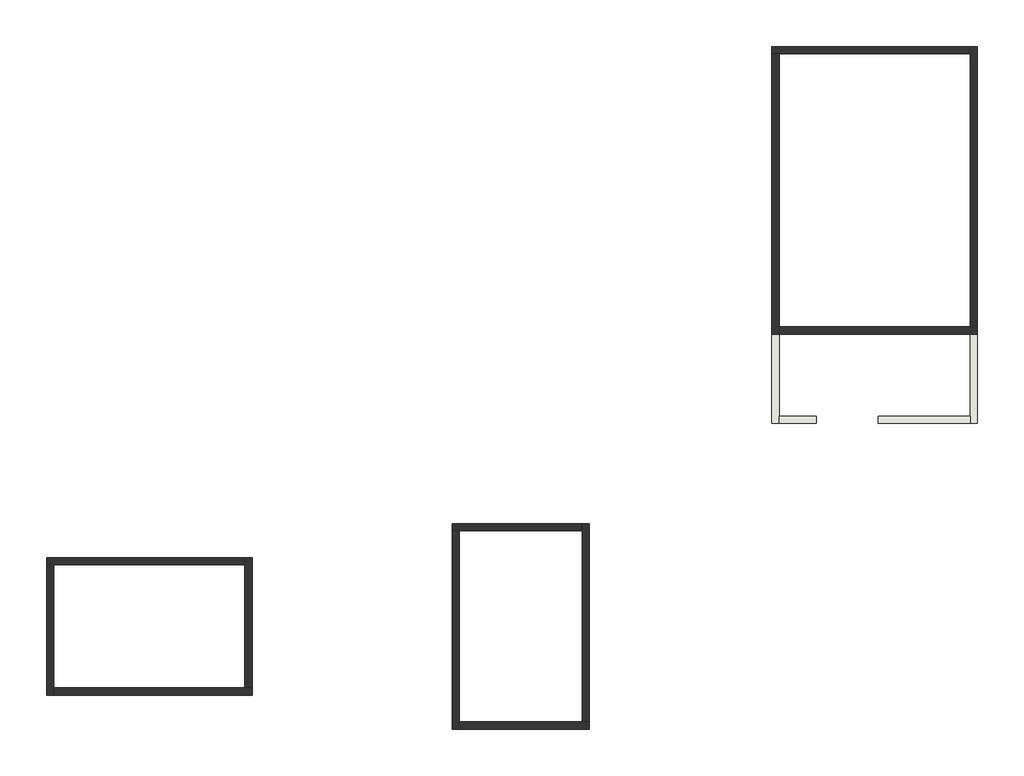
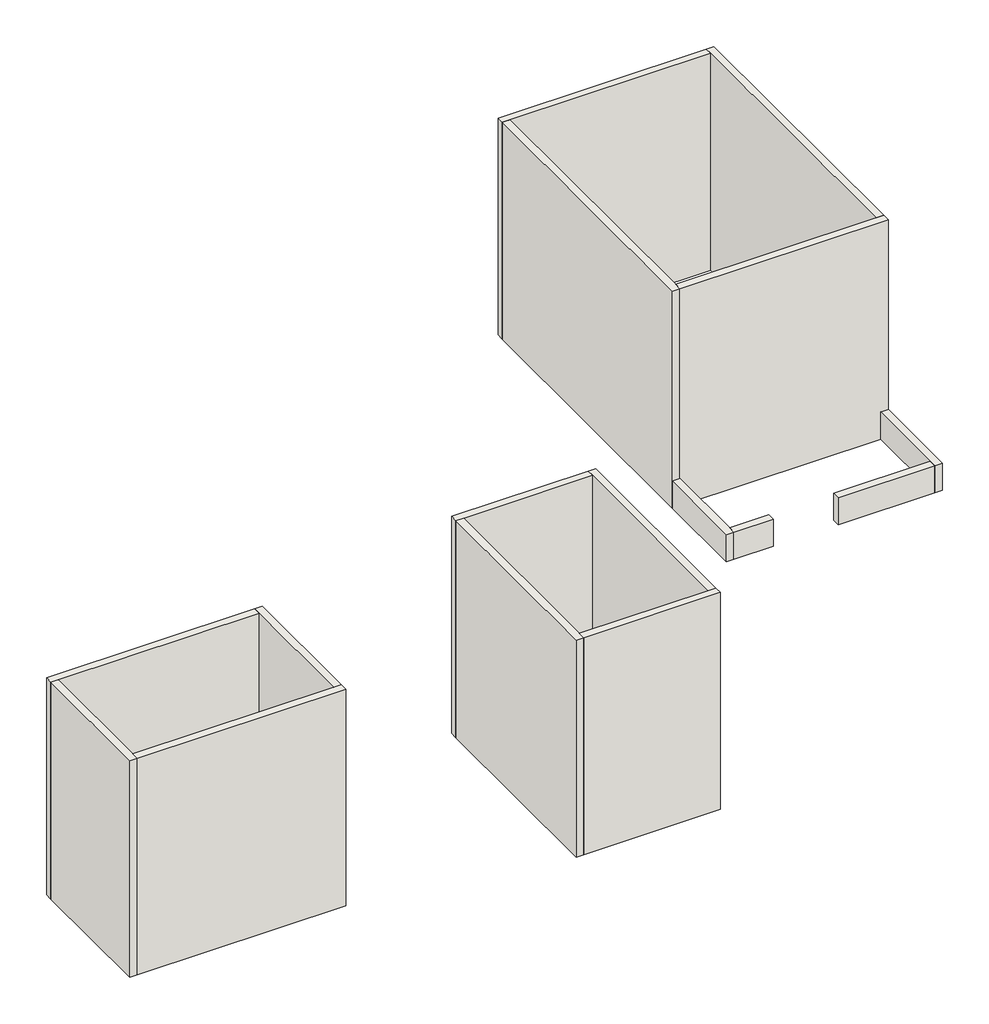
# One storey: 16 walls.
"""IFC4 building model written with IfcOpenShell, lengths in millimetres."""

from ifc_helpers import new_model, si_unit, origin, origin_with_axes, place, context, project, spatial, polyline, outline, extrude, faceted_brep, element, save

model = new_model("IFC4")

# Units and contexts
model_context = context("Model", 3, world=origin())
ifc_project = project(units=[si_unit("LENGTHUNIT", "METRE", prefix="MILLI")], contexts=[model_context])

# Site, building, storey
site = spatial("IfcSite", under=ifc_project)
building = spatial("IfcBuilding", under=site)
storey = spatial("IfcBuildingStorey", under=building, Name="Nível 1", Elevation=0.0)

# Walls
placement = place(None, origin())
element("IfcWall", 1, ObjectType="CW 102-50-100p", at=placement, inside=storey, context=model_context, shape_type="Brep", body=[
    faceted_brep([(-11859.5381387, 2966.9722757, 0.0), (-11595.5381387, 2966.9722757, 0.0), (-4595.5381387, 2966.9722757, 0.0), (-4595.5381387, 2966.9722757, 8000.0), (-11595.5381387, 2966.9722757, 8000.0), (-11859.5381387, 2966.9722757, 8000.0), (-11859.5381387, 3230.9722757, 0.0), (-11859.5381387, 3230.9722757, 8000.0), (-4595.5381387, 3230.9722757, 8000.0), (-4595.5381387, 3230.9722757, 0.0)], [[[0, 1, 2, 3, 4, 5]], [[6, 7, 8, 9]], [[2, 1, 0, 6, 9]], [[5, 4, 3, 8, 7]], [[0, 5, 7, 6]], [[3, 2, 9, 8]]]),
])
element("IfcWall", 2, ObjectType="CW 102-50-100p", at=placement, inside=storey, context=model_context, shape_type="Brep", body=[
    faceted_brep([(-11595.5381387, -1797.0277243, 0.0), (-11595.5381387, -1533.0277243, 0.0), (-11595.5381387, 2966.9722757, 0.0), (-11595.5381387, 2966.9722757, 8000.0), (-11595.5381387, -1533.0277243, 8000.0), (-11595.5381387, -1797.0277243, 8000.0), (-11859.5381387, -1797.0277243, 0.0), (-11859.5381387, -1797.0277243, 8000.0), (-11859.5381387, 2966.9722757, 8000.0), (-11859.5381387, 2966.9722757, 0.0)], [[[0, 1, 2, 3, 4, 5]], [[6, 7, 8, 9]], [[2, 1, 0, 6, 9]], [[5, 4, 3, 8, 7]], [[0, 5, 7, 6]], [[3, 2, 9, 8]]]),
])
element("IfcWall", 3, ObjectType="CW 102-50-100p", at=placement, inside=storey, context=model_context, shape_type="Brep", body=[
    faceted_brep([(-4331.5381387, -1533.0277243, 0.0), (-4595.5381387, -1533.0277243, 0.0), (-11595.5381387, -1533.0277243, 0.0), (-11595.5381387, -1533.0277243, 8000.0), (-4595.5381387, -1533.0277243, 8000.0), (-4331.5381387, -1533.0277243, 8000.0), (-4331.5381387, -1797.0277243, 0.0), (-4331.5381387, -1797.0277243, 8000.0), (-11595.5381387, -1797.0277243, 8000.0), (-11595.5381387, -1797.0277243, 0.0)], [[[0, 1, 2, 3, 4, 5]], [[6, 7, 8, 9]], [[2, 1, 0, 6, 9]], [[5, 4, 3, 8, 7]], [[0, 5, 7, 6]], [[3, 2, 9, 8]]]),
])
element("IfcWall", 4, ObjectType="CW 102-50-100p", at=placement, inside=storey, context=model_context, shape_type="Brep", body=[
    faceted_brep([(-4595.5381387, 3230.9722757, 0.0), (-4595.5381387, 2966.9722757, 0.0), (-4595.5381387, -1533.0277243, 0.0), (-4595.5381387, -1533.0277243, 8000.0), (-4595.5381387, 2966.9722757, 8000.0), (-4595.5381387, 3230.9722757, 8000.0), (-4331.5381387, 3230.9722757, 0.0), (-4331.5381387, 3230.9722757, 8000.0), (-4331.5381387, -1533.0277243, 8000.0), (-4331.5381387, -1533.0277243, 0.0)], [[[0, 1, 2, 3, 4, 5]], [[6, 7, 8, 9]], [[2, 1, 0, 6, 9]], [[5, 4, 3, 8, 7]], [[0, 5, 7, 6]], [[3, 2, 9, 8]]]),
])
element("IfcWall", 5, ObjectType="CW 102-50-100p", at=placement, inside=storey, context=model_context, shape_type="Brep", body=[
    faceted_brep([(3254.4618613, -3047.0277243, 0.0), (3254.4618613, -2783.0277243, 0.0), (3254.4618613, 4216.9722757, 0.0), (3254.4618613, 4216.9722757, 8000.0), (3254.4618613, -2783.0277243, 8000.0), (3254.4618613, -3047.0277243, 8000.0), (2990.4618613, -3047.0277243, 0.0), (2990.4618613, -3047.0277243, 8000.0), (2990.4618613, 4216.9722757, 8000.0), (2990.4618613, 4216.9722757, 0.0)], [[[0, 1, 2, 3, 4, 5]], [[6, 7, 8, 9]], [[2, 1, 0, 6, 9]], [[5, 4, 3, 8, 7]], [[0, 5, 7, 6]], [[3, 2, 9, 8]]]),
])
element("IfcWall", 6, ObjectType="CW 102-50-100p", at=placement, inside=storey, context=model_context, shape_type="Brep", body=[
    faceted_brep([(8018.4618613, -2783.0277243, 0.0), (7754.4618613, -2783.0277243, 0.0), (3254.4618613, -2783.0277243, 0.0), (3254.4618613, -2783.0277243, 8000.0), (7754.4618613, -2783.0277243, 8000.0), (8018.4618613, -2783.0277243, 8000.0), (8018.4618613, -3047.0277243, 0.0), (8018.4618613, -3047.0277243, 8000.0), (3254.4618613, -3047.0277243, 8000.0), (3254.4618613, -3047.0277243, 0.0)], [[[0, 1, 2, 3, 4, 5]], [[6, 7, 8, 9]], [[2, 1, 0, 6, 9]], [[5, 4, 3, 8, 7]], [[0, 5, 7, 6]], [[3, 2, 9, 8]]]),
])
element("IfcWall", 7, ObjectType="CW 102-50-100p", at=placement, inside=storey, context=model_context, shape_type="Brep", body=[
    faceted_brep([(7754.4618613, 4480.9722757, 0.0), (7754.4618613, 4216.9722757, 0.0), (7754.4618613, -2783.0277243, 0.0), (7754.4618613, -2783.0277243, 8000.0), (7754.4618613, 4216.9722757, 8000.0), (7754.4618613, 4480.9722757, 8000.0), (8018.4618613, 4480.9722757, 0.0), (8018.4618613, 4480.9722757, 8000.0), (8018.4618613, -2783.0277243, 8000.0), (8018.4618613, -2783.0277243, 0.0)], [[[0, 1, 2, 3, 4, 5]], [[6, 7, 8, 9]], [[2, 1, 0, 6, 9]], [[5, 4, 3, 8, 7]], [[0, 5, 7, 6]], [[3, 2, 9, 8]]]),
])
element("IfcWall", 8, ObjectType="CW 102-50-100p", at=placement, inside=storey, context=model_context, shape_type="Brep", body=[
    faceted_brep([(2990.4618613, 4216.9722757, 0.0), (3254.4618613, 4216.9722757, 0.0), (7754.4618613, 4216.9722757, 0.0), (7754.4618613, 4216.9722757, 8000.0), (3254.4618613, 4216.9722757, 8000.0), (2990.4618613, 4216.9722757, 8000.0), (2990.4618613, 4480.9722757, 0.0), (2990.4618613, 4480.9722757, 8000.0), (7754.4618613, 4480.9722757, 8000.0), (7754.4618613, 4480.9722757, 0.0)], [[[0, 1, 2, 3, 4, 5]], [[6, 7, 8, 9]], [[2, 1, 0, 6, 9]], [[5, 4, 3, 8, 7]], [[0, 5, 7, 6]], [[3, 2, 9, 8]]]),
])
element("IfcWall", 9, ObjectType="CW 102-50-100p", at=placement, inside=storey, context=model_context, shape_type="Brep", body=[
    faceted_brep([(14695.4842802, 21682.007266, 0.0), (14959.4842802, 21682.007266, 0.0), (21959.4842802, 21682.007266, 0.0), (21959.4842802, 21682.007266, 8000.0), (14959.4842802, 21682.007266, 8000.0), (14695.4842802, 21682.007266, 8000.0), (14695.4842802, 21946.007266, 0.0), (14695.4842802, 21946.007266, 8000.0), (21959.4842802, 21946.007266, 8000.0), (21959.4842802, 21946.007266, 0.0)], [[[0, 1, 2, 3, 4, 5]], [[6, 7, 8, 9]], [[2, 1, 0, 6, 9]], [[5, 4, 3, 8, 7]], [[0, 5, 7, 6]], [[3, 2, 9, 8]]]),
])
element("IfcWall", 10, ObjectType="CW 102-50-100p", at=placement, inside=storey, context=model_context, shape_type="Brep", body=[
    faceted_brep([(14959.4842802, 11418.007266, 8000.0), (14959.4842802, 11418.007266, 1000.0), (14959.4842802, 11418.007266, 0.0), (14959.4842802, 11682.007266, 0.0), (14959.4842802, 21682.007266, 0.0), (14959.4842802, 21682.007266, 8000.0), (14959.4842802, 11682.007266, 8000.0), (14695.4842802, 11418.007266, 0.0), (14695.4842802, 11418.007266, 1000.0), (14695.4842802, 11418.007266, 8000.0), (14695.4842802, 21682.007266, 8000.0), (14695.4842802, 21682.007266, 0.0)], [[[0, 1, 2, 3, 4, 5, 6]], [[7, 8, 9, 10, 11]], [[4, 3, 2, 7, 11]], [[0, 6, 5, 10, 9]], [[5, 4, 11, 10]], [[0, 9, 8, 7, 2, 1]]]),
])
element("IfcWall", 11, ObjectType="CW 102-50-100p", at=placement, inside=storey, context=model_context, shape_type="Brep", body=[
    faceted_brep([(22223.4842802, 11682.007266, 8000.0), (22223.4842802, 11682.007266, 0.0), (21959.4842802, 11682.007266, 0.0), (14959.4842802, 11682.007266, 0.0), (14959.4842802, 11682.007266, 8000.0), (21959.4842802, 11682.007266, 8000.0), (22223.4842802, 11418.007266, 0.0), (22223.4842802, 11418.007266, 1000.0), (22223.4842802, 11418.007266, 8000.0), (14959.4842802, 11418.007266, 8000.0), (14959.4842802, 11418.007266, 0.0), (21959.4842802, 11418.007266, 0.0)], [[[0, 1, 2, 3, 4, 5]], [[6, 7, 8, 9, 10, 11]], [[3, 2, 1, 6, 11, 10]], [[0, 5, 4, 9, 8]], [[3, 10, 9, 4]], [[0, 8, 7, 6, 1]]]),
])
element("IfcWall", 12, ObjectType="CW 102-50-100p", at=placement, inside=storey, context=model_context, shape_type="Brep", body=[
    faceted_brep([(21959.4842802, 21946.007266, 0.0), (21959.4842802, 21682.007266, 0.0), (21959.4842802, 11682.007266, 0.0), (21959.4842802, 11682.007266, 8000.0), (21959.4842802, 21682.007266, 8000.0), (21959.4842802, 21946.007266, 8000.0), (22223.4842802, 21946.007266, 0.0), (22223.4842802, 21946.007266, 8000.0), (22223.4842802, 11682.007266, 8000.0), (22223.4842802, 11682.007266, 0.0)], [[[0, 1, 2, 3, 4, 5]], [[6, 7, 8, 9]], [[2, 1, 0, 6, 9]], [[5, 4, 3, 8, 7]], [[0, 5, 7, 6]], [[2, 9, 8, 3]]]),
])
element("IfcWall", 13, ObjectType="CW 102-50-100p", at=placement, inside=storey, context=model_context, shape_type="Brep", body=[
    faceted_brep([(14695.4842802, 11418.007266, 0.0), (14695.4842802, 8154.007266, 0.0), (14695.4842802, 8154.007266, 1000.0), (14695.4842802, 11418.007266, 1000.0), (14959.4842802, 11418.007266, 0.0), (14959.4842802, 11418.007266, 1000.0), (14959.4842802, 8418.007266, 1000.0), (14959.4842802, 8154.007266, 1000.0), (14959.4842802, 8154.007266, 0.0), (14959.4842802, 8418.007266, 0.0)], [[[0, 1, 2, 3]], [[4, 5, 6, 7, 8, 9]], [[1, 0, 4, 9, 8]], [[3, 2, 7, 6, 5]], [[0, 3, 5, 4]], [[2, 1, 8, 7]]]),
])
element("IfcWall", 14, ObjectType="CW 102-50-100p", at=placement, inside=storey, context=model_context, shape_type="Brep", body=[
    faceted_brep([(21959.4842802, 11418.007266, 0.0), (21959.4842802, 8418.007266, 0.0), (21959.4842802, 8154.007266, 0.0), (21959.4842802, 8154.007266, 1000.0), (21959.4842802, 8418.007266, 1000.0), (21959.4842802, 11418.007266, 1000.0), (22223.4842802, 11418.007266, 0.0), (22223.4842802, 11418.007266, 1000.0), (22223.4842802, 8154.007266, 1000.0), (22223.4842802, 8154.007266, 0.0)], [[[0, 1, 2, 3, 4, 5]], [[6, 7, 8, 9]], [[2, 1, 0, 6, 9]], [[5, 4, 3, 8, 7]], [[0, 5, 7, 6]], [[3, 2, 9, 8]]]),
])
element("IfcWall", 15, ObjectType="CW 102-50-100p", at=placement, inside=storey, context=model_context, shape_type="SweptSolid", body=[
    extrude(outline(polyline([(18591.4842802, 8418.007266), (21959.4842802, 8418.007266), (21959.4842802, 8154.007266), (18591.4842802, 8154.007266), (18591.4842802, 8418.007266)])), origin_with_axes(), (0.0, 0.0, 1.0), 1000.0),
])
element("IfcWall", 16, ObjectType="CW 102-50-100p", at=placement, inside=storey, context=model_context, shape_type="SweptSolid", body=[
    extrude(outline(polyline([(14959.4842802, 8418.007266), (16327.4842802, 8418.007266), (16327.4842802, 8154.007266), (14959.4842802, 8154.007266), (14959.4842802, 8418.007266)])), origin_with_axes(), (0.0, 0.0, 1.0), 1000.0),
])

save(model, "model.ifc")
